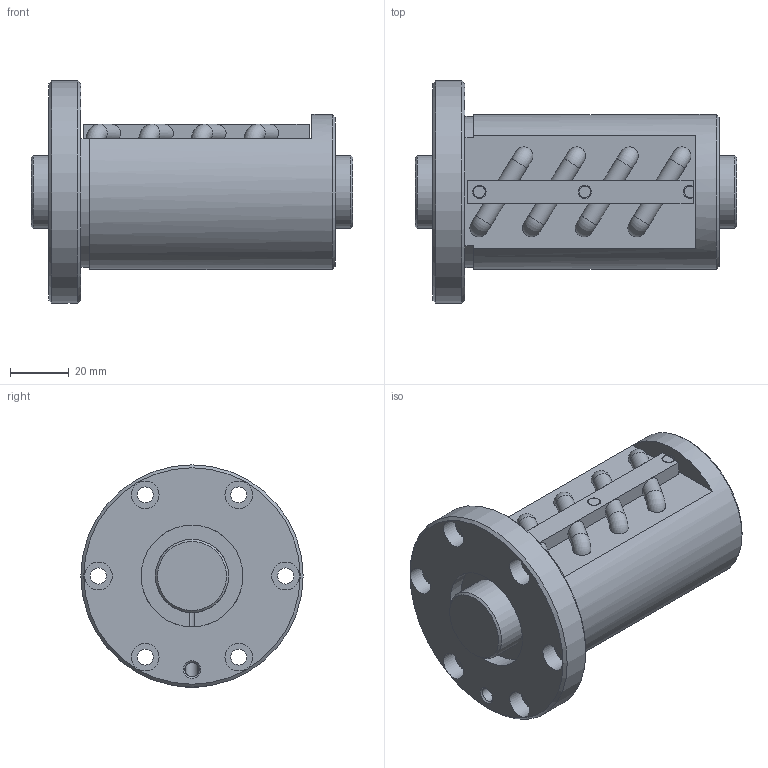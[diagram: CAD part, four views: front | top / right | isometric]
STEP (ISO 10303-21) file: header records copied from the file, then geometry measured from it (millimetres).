
FILE_DESCRIPTION(/* description */ ('STEP AP203'),/* implementation_level */ '2;1');
FILE_NAME(/* name */ 'BIF2506V-10RRG0+110LC0_000',/* time_stamp */ '2024-07-15T08:17:32+02:00',/* author */ ('License CC BY-ND 4.0'),/* organization */ ('CADENAS'),/* preprocessor_version */ 'ST-DEVELOPER v19.3',/* originating_system */ 'PARTsolutions',/* authorisation */ ' ');
FILE_SCHEMA (('CONFIG_CONTROL_DESIGN'));
Length unit declared in the file: millimetre
Products named in the file (3): BIF2506V-10RRG0+110LC0_000; BIF2506V-10RR000 Shaft; BIF2506V-10RR Nut
Assembly tree (2 placements, depth 2):
  BIF2506V-10RRG0+110LC0_000
    BIF2506V-10RR000 Shaft
    BIF2506V-10RR Nut
Bounding box: 110 x 76 x 76 mm (x, y, z)
Volume: 226712.5 mm3; surface area: 45812.6 mm2
Topology: 2 solids, 2 shells, 108 faces, 250 edges, 159 vertices
Faces by surface type: plane 55, cylinder 37, cone 8, torus 8
Full cylindrical faces by diameter (mm): 4 x2, 4.25 x2, 4.5 x2, 4.917 x1, 5.5 x6, 9.5 x6, 25 x2, 34.8 x2, 53 x1, 76 x1
Entity records: 3085 total; most frequent: CARTESIAN_POINT 626, DIRECTION 536, ORIENTED_EDGE 418, AXIS2_PLACEMENT_3D 231, EDGE_CURVE 209, EDGE_LOOP 170, FACE_BOUND 170, VERTEX_POINT 151
